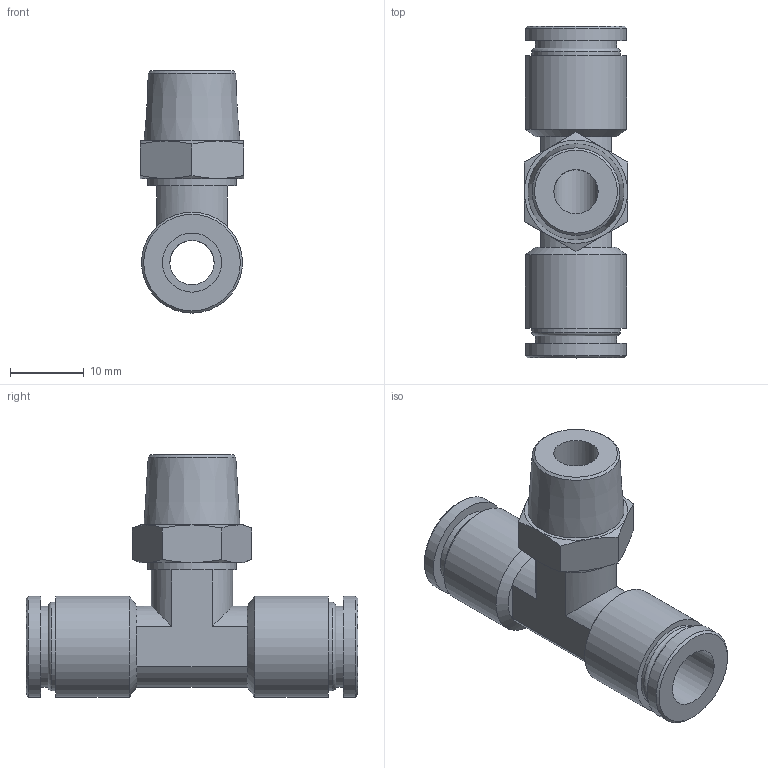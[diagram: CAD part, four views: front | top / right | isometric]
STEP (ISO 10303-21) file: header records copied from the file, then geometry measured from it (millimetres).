
FILE_DESCRIPTION(/* description */ (''),/* implementation_level */ '2;1');
FILE_NAME(/* name */ 'LXH31 0008 B2.stp',/* time_stamp */ '2026-04-22T20:54:54+02:00',/* author */ ('freju'),/* organization */ (''),/* preprocessor_version */ 'ST-DEVELOPER v20.1',/* originating_system */ 'Autodesk Inventor 2026',/* authorisation */ '');
FILE_SCHEMA (('AUTOMOTIVE_DESIGN { 1 0 10303 214 3 1 1 }'));
Length unit declared in the file: millimetre
Products named in the file (1): LXH31 0008 B2
Bounding box: 14 x 45 x 32.85 mm (x, y, z)
Volume: 5471 mm3; surface area: 4677.3 mm2
Topology: 1 solids, 1 shells, 62 faces, 133 edges, 81 vertices
Faces by surface type: plane 24, cylinder 18, cone 18, torus 2
Full cylindrical faces by diameter (mm): 6 x2, 8 x2, 11 x2, 12 x3, 13.7 x4
Entity records: 1707 total; most frequent: CARTESIAN_POINT 325, DIRECTION 302, ORIENTED_EDGE 266, EDGE_CURVE 133, AXIS2_PLACEMENT_3D 130, VERTEX_POINT 81, EDGE_LOOP 74, CIRCLE 63
